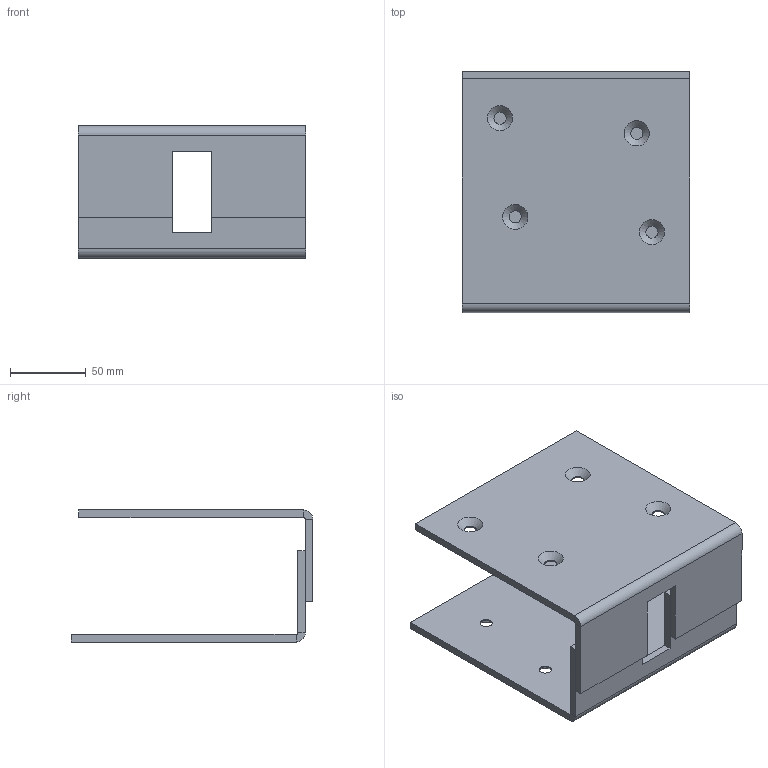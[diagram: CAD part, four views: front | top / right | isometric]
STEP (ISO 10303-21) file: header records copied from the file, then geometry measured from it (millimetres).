
FILE_DESCRIPTION(/* description */ ('Biegeteil mit Löchern'),/* implementation_level */ '2;1');
FILE_NAME(/* name */ 'Q:\sge-ma\Produktmanagement-STB\STB\Workspace\stp\010336550.stp',/* time_stamp */ '2016-07-19T08:14:47+02:00',/* author */ ('avschreier'),/* organization */ (''),/* preprocessor_version */ 'ST-DEVELOPER v16.1',/* originating_system */ 'Autodesk Inventor 2016',/* authorisation */ '');
FILE_SCHEMA (('AUTOMOTIVE_DESIGN { 1 0 10303 214 3 1 1 }'));
Length unit declared in the file: millimetre
Products named in the file (2): 337000350; 010336550
Assembly tree (2 placements, depth 2):
  010336550
    337000350  x2
Bounding box: 150 x 159 x 87 mm (x, y, z)
Volume: 295597.1 mm3; surface area: 127925.2 mm2
Topology: 2 solids, 2 shells, 52 faces, 120 edges, 72 vertices
Faces by surface type: plane 32, cylinder 12, cone 8
Full cylindrical faces by diameter (mm): 8 x8
Entity records: 752 total; most frequent: DIRECTION 128, CARTESIAN_POINT 118, ORIENTED_EDGE 104, EDGE_CURVE 52, AXIS2_PLACEMENT_3D 46, EDGE_LOOP 42, LINE 36, VECTOR 36
